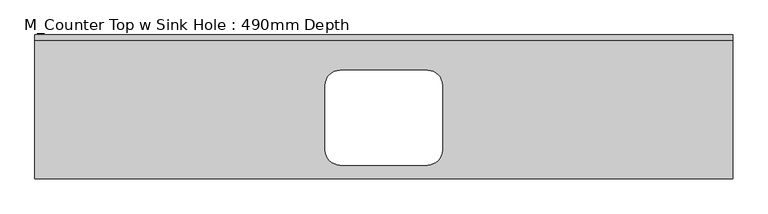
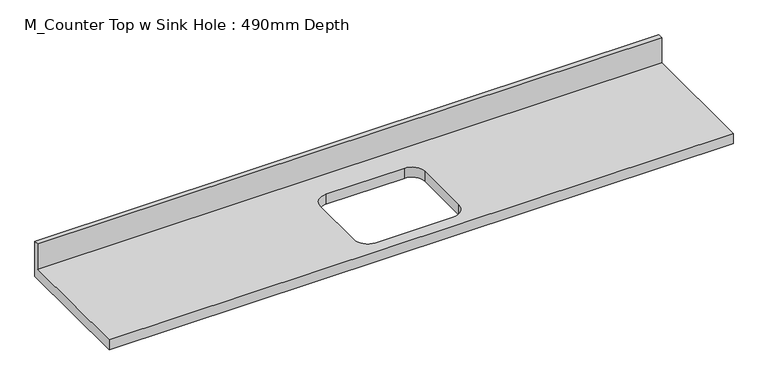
"""IFC4 building model written with IfcOpenShell, lengths in millimetres: furniture geometry, M_Counter Top w Sink Hole : 490mm Depth."""

from ifc_helpers import new_model, si_unit, frame, origin, place, context, project, spatial, polyline, circle_curve, source, transform, mapped, element, save
from ifc_brep_helpers import plane_surface, revolved_surface, advanced_brep


def m_counter_top_w_sink_hole_490mm_depth_88a1f249(model_context):
    return source(origin(), model_context, "Body", "AdvancedBrep", [
        advanced_brep(
        [(-1200.4622951, -490.0, 900.0), (1179.5377049, -490.0, 900.0), (1179.5377049, -19.05, 900.0), (-1200.4622951, -19.05, 900.0), (-159.3622951, -120.65, 900.0), (138.2377049, -120.65, 900.0), (189.0377049, -171.45, 900.0), (189.0377049, -392.85, 900.0), (138.2377049, -443.65, 900.0), (-159.3622951, -443.65, 900.0), (-210.1622951, -392.85, 900.0), (-210.1622951, -171.45, 900.0), (1179.5377049, 0.0, 860.0), (1179.5377049, -490.0, 860.0), (-1200.4622951, -490.0, 860.0), (-1200.4622951, 0.0, 860.0), (138.2377049, -120.65, 860.0), (-159.3622951, -120.65, 860.0), (-210.1622951, -171.45, 860.0), (-210.1622951, -392.85, 860.0), (-159.3622951, -443.65, 860.0), (138.2377049, -443.65, 860.0), (189.0377049, -392.85, 860.0), (189.0377049, -171.45, 860.0), (-1200.4622951, 0.0, 1001.6), (1179.5377049, 0.0, 1001.6), (-1200.4622951, -19.05, 1001.6), (1179.5377049, -19.05, 1001.6)],
        [
            (0, 1),
            (1, 2),
            (2, 3),
            (3, 0),
            (4, 5),
            (5, 6, circle_curve(frame((138.2377049, -171.45, 900.0), z_axis=(0.0, 0.0, -1.0), x_axis=(1.0, 0.0, 0.0)), 50.8)),
            (6, 7),
            (7, 8, circle_curve(frame((138.2377049, -392.85, 900.0), z_axis=(0.0, 0.0, -1.0), x_axis=(1.0, 0.0, 0.0)), 50.8)),
            (8, 9),
            (9, 10, circle_curve(frame((-159.3622951, -392.85, 900.0), z_axis=(0.0, 0.0, -1.0), x_axis=(1.0, 0.0, 0.0)), 50.8)),
            (10, 11),
            (11, 4, circle_curve(frame((-159.3622951, -171.45, 900.0), z_axis=(0.0, 0.0, -1.0), x_axis=(1.0, 0.0, 0.0)), 50.8)),
            (12, 13),
            (13, 14),
            (14, 15),
            (15, 12),
            (16, 17),
            (17, 18, circle_curve(frame((-159.3622951, -171.45, 860.0), z_axis=(0.0, 0.0, 1.0), x_axis=(1.0, 0.0, 0.0)), 50.8)),
            (18, 19),
            (19, 20, circle_curve(frame((-159.3622951, -392.85, 860.0), z_axis=(0.0, 0.0, 1.0), x_axis=(1.0, 0.0, 0.0)), 50.8)),
            (20, 21),
            (21, 22, circle_curve(frame((138.2377049, -392.85, 860.0), z_axis=(0.0, 0.0, 1.0), x_axis=(1.0, 0.0, 0.0)), 50.8)),
            (22, 23),
            (23, 16, circle_curve(frame((138.2377049, -171.45, 860.0), z_axis=(0.0, 0.0, 1.0), x_axis=(1.0, 0.0, 0.0)), 50.8)),
            (15, 24),
            (24, 25),
            (25, 12),
            (14, 0),
            (3, 26),
            (26, 24),
            (13, 1),
            (25, 27),
            (27, 2),
            (26, 27),
            (4, 17),
            (16, 5),
            (11, 18),
            (10, 19),
            (9, 20),
            (8, 21),
            (7, 22),
            (6, 23),
        ],
        [
            plane_surface(frame((-1200.4622951, 0.0, 900.0), z_axis=(0.0, 0.0, 1.0), x_axis=(-1.0, 0.0, 0.0))),
            plane_surface(frame((-1200.4622951, 0.0, 860.0), z_axis=(0.0, 0.0, -1.0), x_axis=(1.0, 0.0, 0.0))),
            plane_surface(frame((1179.5377049, 0.0, 900.0), z_axis=(0.0, 1.0, 0.0), x_axis=(0.0, 0.0, -1.0))),
            plane_surface(frame((-1200.4622951, 0.0, 900.0), z_axis=(-1.0, 0.0, 0.0), x_axis=(0.0, 0.0, -1.0))),
            plane_surface(frame((-1200.4622951, -490.0, 900.0), z_axis=(0.0, -1.0, 0.0), x_axis=(0.0, 0.0, -1.0))),
            plane_surface(frame((1179.5377049, -490.0, 900.0), z_axis=(1.0, 0.0, 0.0), x_axis=(0.0, 0.0, -1.0))),
            plane_surface(frame((-1200.4622951, 0.0, 1001.6), z_axis=(0.0, 0.0, 1.0), x_axis=(0.0, -1.0, 0.0))),
            plane_surface(frame((-1200.4622951, -19.05, 1001.6), z_axis=(0.0, -1.0, 0.0), x_axis=(0.0, 0.0, -1.0))),
            plane_surface(frame((138.2377049, -120.65, 900.0), z_axis=(0.0, -1.0, 0.0), x_axis=(0.0, 0.0, -1.0))),
            revolved_surface(polyline([(-108.56229510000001, -171.45, 900.0), (-108.56229510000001, -171.45, 860.0)]), (-159.3622951, -171.45, 860.0), (0.0, 0.0, 1.0)),
            plane_surface(frame((-210.1622951, -171.45, 900.0), z_axis=(1.0, 0.0, 0.0), x_axis=(0.0, 0.0, -1.0))),
            revolved_surface(polyline([(-108.56229510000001, -392.85, 900.0), (-108.56229510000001, -392.85, 860.0)]), (-159.3622951, -392.85, 860.0), (0.0, 0.0, 1.0)),
            plane_surface(frame((-159.3622951, -443.65, 900.0), z_axis=(0.0, 1.0, 0.0), x_axis=(0.0, 0.0, -1.0))),
            revolved_surface(polyline([(189.0377049, -392.85, 900.0), (189.0377049, -392.85, 860.0)]), (138.2377049, -392.85, 860.0), (0.0, 0.0, 1.0)),
            plane_surface(frame((189.0377049, -392.85, 900.0), z_axis=(-1.0, 0.0, 0.0), x_axis=(0.0, 0.0, -1.0))),
            revolved_surface(polyline([(189.0377049, -171.45, 900.0), (189.0377049, -171.45, 860.0)]), (138.2377049, -171.45, 860.0), (0.0, 0.0, 1.0)),
        ],
        [
            (0, [[1, 2, 3, 4], [5, 6, 7, 8, 9, 10, 11, 12]]),
            (1, [[13, 14, 15, 16], [17, 18, 19, 20, 21, 22, 23, 24]]),
            (2, [[-16, 25, 26, 27]]),
            (3, [[-15, 28, -4, 29, 30, -25]]),
            (4, [[-1, -28, -14, 31]]),
            (5, [[-13, -27, 32, 33, -2, -31]]),
            (6, [[-30, 34, -32, -26]]),
            (7, [[-34, -29, -3, -33]]),
            (8, [[35, -17, 36, -5]]),
            (9, [[-35, -12, 37, -18]]),
            (10, [[-37, -11, 38, -19]]),
            (11, [[-38, -10, 39, -20]]),
            (12, [[-39, -9, 40, -21]]),
            (13, [[-40, -8, 41, -22]]),
            (14, [[-41, -7, 42, -23]]),
            (15, [[-36, -24, -42, -6]]),
        ],
    ),
    ])


if __name__ == "__main__":
    model = new_model("IFC4")
    model_context = context("Model", 3, world=origin())
    ifc_project = project(units=[si_unit("LENGTHUNIT", "METRE", prefix="MILLI")], contexts=[model_context])
    site = spatial("IfcSite", under=ifc_project)
    building = spatial("IfcBuilding", under=site)
    placement = place(None, origin())
    m_counter_top_w_sink_hole_490mm_depth_shape = m_counter_top_w_sink_hole_490mm_depth_88a1f249(model_context)
    element("IfcFurniture", 1, ObjectType="M_Counter Top w Sink Hole : 490mm Depth", at=placement, inside=building, context=model_context, shape_type="MappedRepresentation", body=[
        mapped(m_counter_top_w_sink_hole_490mm_depth_shape, transform((0.0, 0.0, 0.0), x_axis=(1.0, 0.0, 0.0), y_axis=(0.0, 1.0, 0.0), z_axis=(0.0, 0.0, 1.0))),
    ])
    save(model, "model.ifc")
